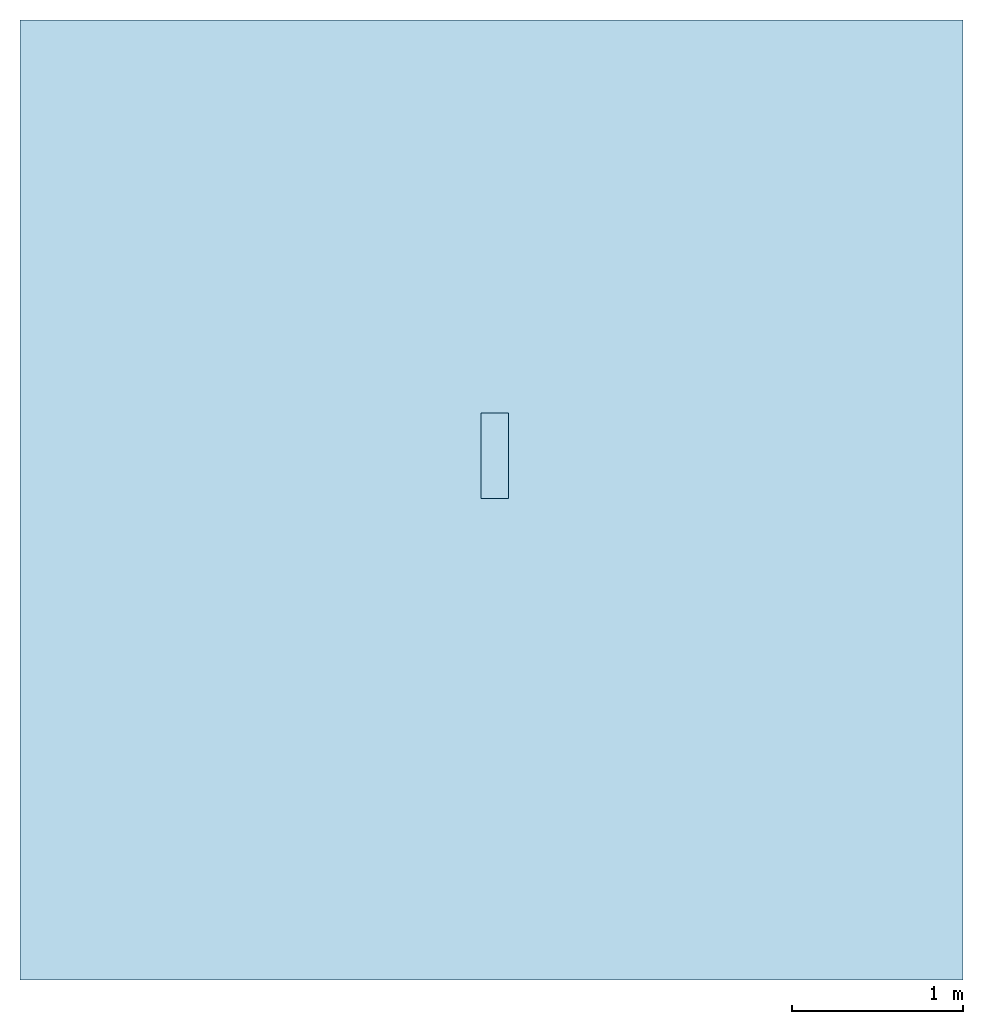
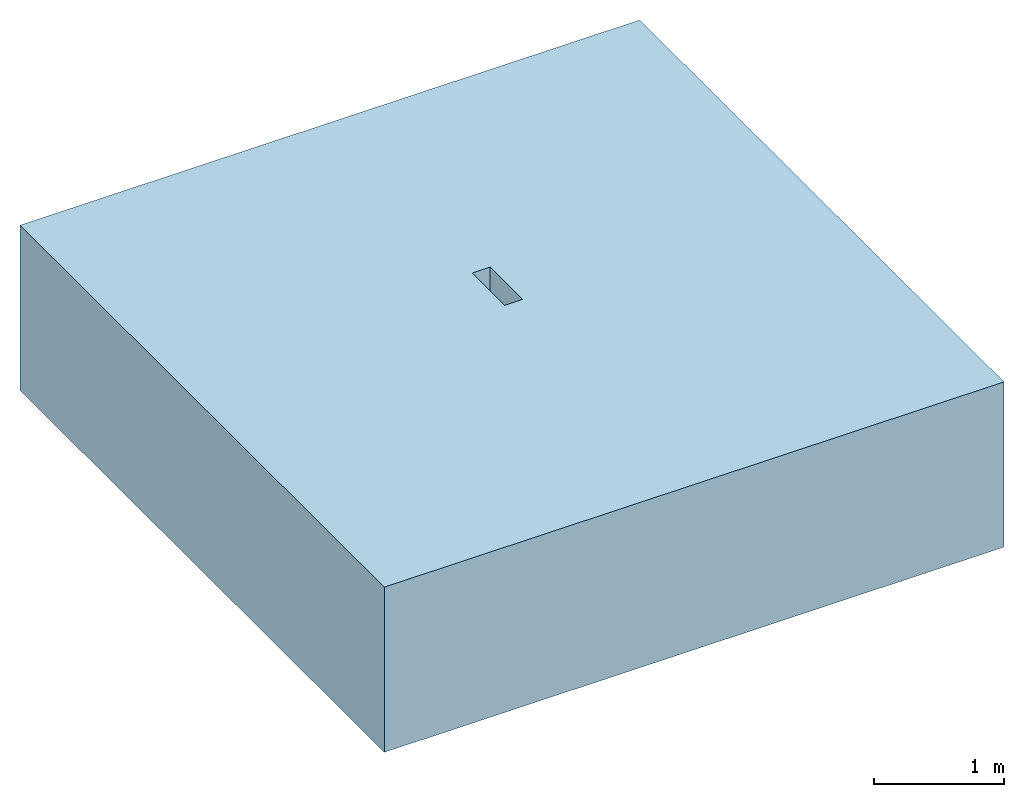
# One storey: 1 slab, 2 openings.
"""IFC2X3 building model written with IfcOpenShell, lengths in millimetres."""

import ifcopenshell
import ifcopenshell.guid

model = None  # the IFC model being written
_history = None  # IfcOwnerHistory: only IFC2X3 demands one
_inside = {}  # id of a spatial element -> (the spatial element, [elements in it])
_under = {}  # id of a project, library or spatial element -> (it, [spatial elements below it])
_declared = {}  # id of a project -> (the project, [libraries it declares])
_typed = {}  # id of a type object -> (the type object, [elements of that type])
_made_of = {}  # id of a material, layer set ... -> (it, [elements and type objects made of it])


def new_model(schema):
    """Start an empty IFC model of exactly this schema.

    Asked for "IFC4X3", IfcOpenShell would pick the latest addendum, in which some entities
    have other attributes; the version numbers below select the first issue.
    IFC2X3 requires an IfcOwnerHistory on every rooted entity: one is made here for all.
    """
    global model, _history
    if schema == "IFC4X3":
        model = ifcopenshell.file(schema_version=(4, 3, 0, 0))
    else:
        model = ifcopenshell.file(schema=schema)
    _inside.clear()
    _under.clear()
    _declared.clear()
    _typed.clear()
    _made_of.clear()
    _history = None
    if model.schema == "IFC2X3":
        org = make("IfcOrganization", Name="unknown")
        user = make(
            "IfcPersonAndOrganization",
            ThePerson=make("IfcPerson", FamilyName="unknown"),
            TheOrganization=org,
        )
        app = make(
            "IfcApplication",
            ApplicationDeveloper=org,
            Version="unknown",
            ApplicationFullName="unknown",
            ApplicationIdentifier="unknown",
        )
        _history = make(
            "IfcOwnerHistory",
            OwningUser=user,
            OwningApplication=app,
            ChangeAction="ADDED",
            CreationDate=0,
        )
    return model


def make(cls, **values):
    """One entity of the class cls with the attributes given. An attribute that is None is left unset."""
    return model.create_entity(
        cls, **{name: value for name, value in values.items() if value is not None}
    )


def entity(cls, *values):
    """Any entity or typed value of the class cls, its attributes in the order of the schema. None: left unset."""
    e = model.create_entity(cls)
    for i, value in enumerate(values):
        if value is not None:
            e[i] = value
    return e


def rooted(cls, **values):
    """An entity with a GlobalId (a new one), such as an element, a storey or a relation."""
    return make(cls, GlobalId=ifcopenshell.guid.new(), OwnerHistory=_history, **values)


def si_unit(unit_type, name, prefix=None):
    """IfcSIUnit, for example si_unit("LENGTHUNIT", "METRE", prefix="MILLI")."""
    return make("IfcSIUnit", UnitType=unit_type, Prefix=prefix, Name=name)


def converted_unit(unit_type, name, factor, base, dimensions=None, offset=None):
    """IfcConversionBasedUnit, such as the inch: factor (a typed value) times the base unit."""
    return make(
        "IfcConversionBasedUnit"
        if offset is None
        else "IfcConversionBasedUnitWithOffset",
        ConversionOffset=offset,
        Dimensions=None
        if dimensions is None
        else entity("IfcDimensionalExponents", *dimensions),
        UnitType=unit_type,
        Name=name,
        ConversionFactor=make(
            "IfcMeasureWithUnit", ValueComponent=factor, UnitComponent=base
        ),
    )


def assignment(units):
    """IfcUnitAssignment: the units of a project."""
    return None if units is None else make("IfcUnitAssignment", Units=units)


def point(xyz):
    """IfcCartesianPoint."""
    return None if xyz is None else make("IfcCartesianPoint", Coordinates=xyz)


def direction(xyz):
    """IfcDirection."""
    return None if xyz is None else make("IfcDirection", DirectionRatios=xyz)


def frame(location, z_axis=None, x_axis=None):
    """IfcAxis2Placement3D, a coordinate frame: its origin and axes. An axis left out is left unset."""
    return make(
        "IfcAxis2Placement3D",
        Location=point(location),
        Axis=direction(z_axis),
        RefDirection=direction(x_axis),
    )


def frame_2d(location, x_axis=None):
    """IfcAxis2Placement2D, a coordinate frame in the plane: its origin and x axis."""
    return make(
        "IfcAxis2Placement2D", Location=point(location), RefDirection=direction(x_axis)
    )


def origin():
    """The frame at (0, 0, 0) with its axes left unset."""
    return frame((0.0, 0.0, 0.0))


def origin_2d_with_axis():
    """The frame at (0, 0) in the plane with the x axis (1, 0) written out."""
    return frame_2d((0.0, 0.0), x_axis=(1.0, 0.0))


def place(relative_to, where):
    """IfcLocalPlacement: puts the frame where relative to a parent placement (None: the world)."""
    return make(
        "IfcLocalPlacement", PlacementRelTo=relative_to, RelativePlacement=where
    )


def context(
    kind, dimensions, precision=None, world=None, true_north=None, identifier=None
):
    """IfcGeometricRepresentationContext, for example the 3D "Model" context."""
    return make(
        "IfcGeometricRepresentationContext",
        ContextIdentifier=identifier,
        ContextType=kind,
        CoordinateSpaceDimension=dimensions,
        Precision=precision,
        WorldCoordinateSystem=world,
        TrueNorth=true_north,
    )


def subcontext(parent, identifier, kind, view, scale=None):
    """IfcGeometricRepresentationSubContext, for example "Body" below "Model"."""
    return make(
        "IfcGeometricRepresentationSubContext",
        ContextIdentifier=identifier,
        ContextType=kind,
        ParentContext=parent,
        TargetScale=scale,
        TargetView=view,
    )


def project(units=None, contexts=None):
    """IfcProject with its units and contexts."""
    return rooted(
        "IfcProject",
        Name="project",
        RepresentationContexts=contexts,
        UnitsInContext=assignment(units),
    )


def spatial(cls, under=None, at=None, **own):
    """A site, building, storey or space (cls), placed at a placement, below another one or the project."""
    s = rooted(cls, ObjectPlacement=at, **own)
    if under is not None:
        _under.setdefault(under.id(), (under, []))[1].append(s)
    return s


def polyline(points):
    """IfcPolyline through the points."""
    return make("IfcPolyline", Points=[point(p) for p in points])


def profile(cls, at=None, kind="AREA", **sizes):
    """A parametric profile (cls). Its sizes go by their IFC names, for example OverallWidth=200.0."""
    return make(cls, ProfileType=kind, Position=at, **sizes)


def rectangle(**sizes):
    """IfcRectangleProfileDef."""
    return profile("IfcRectangleProfileDef", **sizes)


def outline(outer, holes=None, kind="AREA"):
    """IfcArbitraryClosedProfileDef: a profile drawn as a closed curve; with holes, ...WithVoids."""
    if holes is None:
        return make("IfcArbitraryClosedProfileDef", ProfileType=kind, OuterCurve=outer)
    return make(
        "IfcArbitraryProfileDefWithVoids",
        ProfileType=kind,
        OuterCurve=outer,
        InnerCurves=holes,
    )


def extrude(swept, where, along, depth):
    """IfcExtrudedAreaSolid: the profile swept, set in the frame where, extruded along a direction by depth."""
    return make(
        "IfcExtrudedAreaSolid",
        SweptArea=swept,
        Position=where,
        ExtrudedDirection=direction(along),
        Depth=depth,
    )


def shape(context_of_items, identifier, shape_type, items):
    """IfcShapeRepresentation: the items that make up one representation, for example the "Body"."""
    return make(
        "IfcShapeRepresentation",
        ContextOfItems=context_of_items,
        RepresentationIdentifier=identifier,
        RepresentationType=shape_type,
        Items=items,
    )


def material(Name=None, Category=None):
    """IfcMaterial."""
    return make("IfcMaterial", Name=Name, Category=Category)


def layer(
    of_material, thickness, ventilated=None, Name=None, Category=None, Priority=None
):
    """IfcMaterialLayer: one layer of a wall or slab, of a material (None: an air gap)."""
    return make(
        "IfcMaterialLayer",
        Material=of_material,
        LayerThickness=thickness,
        IsVentilated=ventilated,
        Name=Name,
        Category=Category,
        Priority=Priority,
    )


def layer_set(layers, Name=None):
    """IfcMaterialLayerSet."""
    return make("IfcMaterialLayerSet", MaterialLayers=layers, LayerSetName=Name)


def layer_usage(for_layer_set, set_direction, sense, offset, extent=None):
    """IfcMaterialLayerSetUsage: how a layer set lies in its element."""
    return make(
        "IfcMaterialLayerSetUsage",
        ForLayerSet=for_layer_set,
        LayerSetDirection=set_direction,
        DirectionSense=sense,
        OffsetFromReferenceLine=offset,
        ReferenceExtent=extent,
    )


def made_of(thing, what):
    """Note that an element or type object is made of a material, layer set ...; save() writes the relation."""
    if what is not None:
        _made_of.setdefault(what.id(), (what, []))[1].append(thing)
    return thing


def element(
    cls,
    number,
    at=None,
    inside=None,
    cuts=None,
    type_object=None,
    material=None,
    context=None,
    identifier="Body",
    shape_type=None,
    held_by="IfcProductDefinitionShape",
    body=None,
    shapes=None,
    **own,
):
    """One element of the class cls, such as IfcWall. Its Tag is "e" and its number.

    at: its placement. inside: the storey or other place that contains it. cuts: it is an
    opening in that element (IfcRelVoidsElement). A single representation is given by context,
    identifier, shape_type and body (its items); several are given by shapes. held_by: the class
    of the entity that holds the representations. save() writes the other relations.
    """
    e = rooted(cls, Tag="e%d" % number, ObjectPlacement=at, **own)
    if body is not None:
        shapes = [shape(context, identifier, shape_type, body)]
    if shapes is not None:
        e.Representation = make(held_by, Representations=shapes)
    if inside is not None:
        _inside.setdefault(inside.id(), (inside, []))[1].append(e)
    if cuts is not None:
        rooted(
            "IfcRelVoidsElement", RelatingBuildingElement=cuts, RelatedOpeningElement=e
        )
    if type_object is not None:
        _typed.setdefault(type_object.id(), (type_object, []))[1].append(e)
    return made_of(e, material)


def aggregate(whole, parts):
    """IfcRelAggregates: a whole, such as a stair, and the parts it consists of."""
    return rooted("IfcRelAggregates", RelatingObject=whole, RelatedObjects=parts)


def save(model, path):
    """Write the relations noted so far, then the file.

    IfcRelAggregates (storeys below a building ...), IfcRelContainedInSpatialStructure (elements
    in a storey), IfcRelDefinesByType, IfcRelAssociatesMaterial and IfcRelDeclares: one each for
    every whole, place, type object, material and project.
    """
    for whole, parts in _under.values():
        aggregate(whole, parts)
    for where, things in _inside.values():
        rooted(
            "IfcRelContainedInSpatialStructure",
            RelatedElements=things,
            RelatingStructure=where,
        )
    for kind, things in _typed.values():
        rooted("IfcRelDefinesByType", RelatedObjects=things, RelatingType=kind)
    for what, things in _made_of.values():
        rooted("IfcRelAssociatesMaterial", RelatedObjects=things, RelatingMaterial=what)
    for by, libraries in _declared.values():
        rooted("IfcRelDeclares", RelatingContext=by, RelatedDefinitions=libraries)
    model.write(path)


model = new_model("IFC2X3")

# Units and contexts
model_context = context("Model", 3, precision=1e-06, world=origin(), true_north=direction((2.0, 6.12303176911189e-17, 1.0)))
context_of_model = context(None, 3, precision=1e-06, world=origin(), true_north=direction((2.0, 6.12303176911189e-17, 1.0)))
body_context = subcontext(model_context, "Body", "Model", "MODEL_VIEW")
ifc_project = project(units=[si_unit("LENGTHUNIT", "METRE", prefix="MILLI"), si_unit("AREAUNIT", "SQUARE_METRE", prefix="MILLI"), si_unit("VOLUMEUNIT", "CUBIC_METRE", prefix="MILLI"), converted_unit("PLANEANGLEUNIT", "DEGREE", entity("IfcRatioMeasure", 0.0174532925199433), si_unit("PLANEANGLEUNIT", "RADIAN"), dimensions=[0, 0, 0, 0, 0, 0, 0]), si_unit("TIMEUNIT", "SECOND")], contexts=[model_context, context_of_model])

# Site, building, storey
site_placement = place(None, origin())
site = spatial("IfcSite", under=ifc_project, at=site_placement, Name="Default", CompositionType="ELEMENT")
building_placement = place(site_placement, origin())
building = spatial("IfcBuilding", under=site, at=building_placement, CompositionType="ELEMENT")
storey_placement = place(building_placement, frame((0.0, 0.0, -4300.0)))
storey = spatial("IfcBuildingStorey", under=building, at=storey_placement, Name="T.O. Footing", CompositionType="ELEMENT", Elevation=-4300.0)

# Slab, openings
ifc_material_1 = material(Name="Grass")
ifc_layer_1 = layer(ifc_material_1, 50.0)
ifc_material_2 = material(Name="Earth")
ifc_layer_2 = layer(ifc_material_2, 1500.0)
ifc_layer_set = layer_set([ifc_layer_1, ifc_layer_2], Name="Floor:Generic Floor - 400mm")
ifc_layer_usage = layer_usage(ifc_layer_set, "AXIS3", "POSITIVE", 0.0)
slab_placement = place(storey_placement, frame((-66085.1443120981, 26316.7493510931, -1550.0)))
slab = element("IfcSlab", 1, at=slab_placement, inside=storey, material=ifc_layer_usage, Name="Floor:Generic Floor - 400mm", ObjectType="Floor:Generic Floor - 400mm", PredefinedType="FLOOR", context=body_context, shape_type="SweptSolid", body=[
    extrude(rectangle(XDim=5600.0, YDim=5500.0, at=frame_2d((0.0, 0.0), x_axis=(0.0, -1.0))), frame((2750.0, 2800.0, 1550.0), z_axis=(0.0, 0.0, -1.0), x_axis=(-1.0, 0.0, 0.0)), (0.0, 0.0, 1.0), 1550.0),
])
opening_1_placement = place(slab_placement, origin())
element("IfcOpeningElement", 2, at=opening_1_placement, cuts=slab, ObjectType="Recess", context=body_context, shape_type="SweptSolid", body=[
    extrude(outline(polyline([(67.8968497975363, -6.13007239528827), (115.530871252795, -6.13007239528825), (-37.4900112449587, 117.940913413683), (-135.109314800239, -2.45622763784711), (-10.8283950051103, -103.224540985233), (67.8968497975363, -6.13007239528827)])), frame((2689.57643276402, 2900.72681174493, -1793.6), z_axis=(1.0, 0.0, 0.0), x_axis=(0.0, -0.629801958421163, 0.776755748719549)), (0.0, 0.0, 1.0), 159.999999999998),
])
opening_2_placement = place(slab_placement, origin())
element("IfcOpeningElement", 3, at=opening_2_placement, cuts=slab, ObjectType="Recess", context=body_context, shape_type="SweptSolid", body=[
    extrude(rectangle(XDim=159.999999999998, YDim=499.999999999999, at=origin_2d_with_axis()), frame((2769.57643276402, 3057.72681174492, 1150.0)), (0.0, 0.0, 1.0), 400.0),
])

save(model, "model.ifc")
